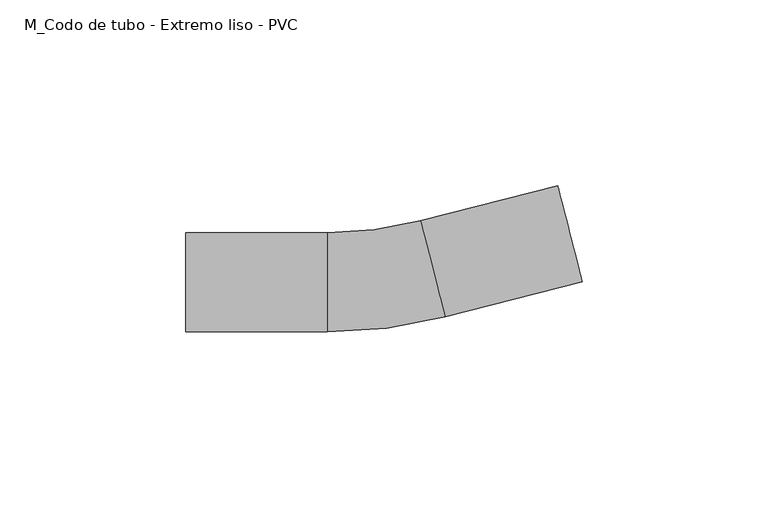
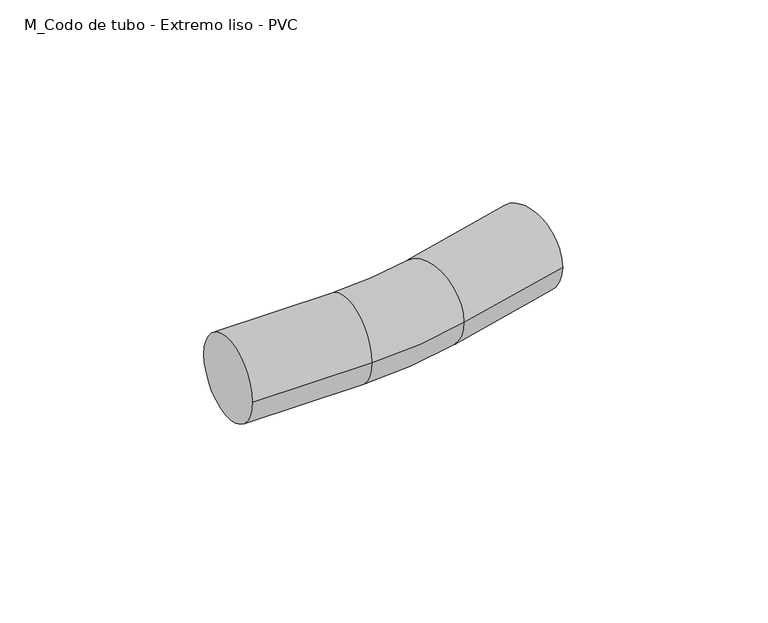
"""IFC4 building model written with IfcOpenShell, lengths in millimetres: cable carrier fitting geometry, M_Codo de tubo - Extremo liso - PVC : CODO ILUMINACION."""

from ifc_helpers import new_model, si_unit, point, frame, origin, place, context, project, spatial, circle_curve, ellipse_curve, trimmed, source, transform, mapped, element, save
from ifc_brep_helpers import plane_surface, cylinder_surface, revolved_surface, advanced_brep


def m_codo_de_tubo_extremo_liso_pvc_b05ac682(model_context):
    return source(origin(), model_context, "Body", "AdvancedBrep", [
        advanced_brep(
        [(-52.5205316, -13.335, 0.0), (-52.5205316, 13.335, 0.0), (-14.4205316, -13.335, 0.0), (-14.4205316, 13.335, 0.0), (10.6565803, 16.4988258, 0.0), (17.2807231, -9.3354467, 0.0), (54.1868266, 0.1276144, 0.0), (47.5626838, 25.9618869, 0.0)],
        [
            (0, 1, circle_curve(frame((-52.5205316, 0.0, 0.0), z_axis=(-1.0, 0.0, 0.0), x_axis=(0.0, 1.0, 0.0)), 13.335)),
            (1, 0, circle_curve(frame((-52.5205316, 0.0, 0.0), z_axis=(-1.0, 0.0, 0.0), x_axis=(0.0, 1.0, 0.0)), 13.335)),
            (0, 2),
            (2, 3, circle_curve(frame((-14.4205316, 0.0, 0.0), z_axis=(-1.0, 0.0, 0.0), x_axis=(0.0, 1.0, 0.0)), 13.335)),
            (3, 1),
            (3, 2, circle_curve(frame((-14.4205316, 0.0, 0.0), z_axis=(-1.0, 0.0, 0.0), x_axis=(0.0, 1.0, 0.0)), 13.335)),
            (4, 3, circle_curve(frame((-14.4205316, 114.3, 0.0), z_axis=(0.0, 0.0, -1.0), x_axis=(0.0, -1.0, 0.0)), 100.965)),
            (2, 5, circle_curve(frame((-14.4205316, 114.3, 0.0), z_axis=(0.0, 0.0, 1.0), x_axis=(0.0, -1.0, 0.0)), 127.635)),
            (5, 4, circle_curve(frame((13.9686517, 3.5816895, 0.0), z_axis=(-0.9686641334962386, -0.24837430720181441, 0.0), x_axis=(-0.24837430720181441, 0.9686641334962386, 0.0)), 13.335)),
            (4, 5, circle_curve(frame((13.9686517, 3.5816895, 0.0), z_axis=(-0.9686641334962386, -0.24837430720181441, 0.0), x_axis=(-0.24837430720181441, 0.9686641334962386, 0.0)), 13.335)),
            (6, 7, circle_curve(frame((50.8747552, 13.0447506, 0.0), z_axis=(0.9686641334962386, 0.24837430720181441, 0.0), x_axis=(-0.24837430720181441, 0.9686641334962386, 0.0)), 13.335)),
            (7, 6, circle_curve(frame((50.8747552, 13.0447506, 0.0), z_axis=(0.9686641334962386, 0.24837430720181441, 0.0), x_axis=(-0.24837430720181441, 0.9686641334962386, 0.0)), 13.335)),
            (5, 6),
            (7, 4),
        ],
        [
            plane_surface(frame((-52.5205316, 0.0, 0.0), z_axis=(-1.0, 0.0, 0.0), x_axis=(0.0, 0.0, 1.0))),
            cylinder_surface(frame((-52.5205316, 0.0, 0.0), z_axis=(-1.0, 0.0, 0.0), x_axis=(0.0, 1.0, 0.0)), 13.335),
            revolved_surface(trimmed(ellipse_curve(frame((-14.4205316, 0.0, 0.0), z_axis=(-1.0, 0.0, 0.0), x_axis=(0.0, 1.0, 0.0)), 13.335, 13.335), [point((-14.4205316, -13.335, 0.0))], [point((-14.4205316, 13.335, 0.0))], True, "CARTESIAN"), (-14.4205316, 114.3, 0.0), (0.0, 0.0, 1.0)),
            revolved_surface(trimmed(ellipse_curve(frame((-14.4205316, 0.0, 0.0), z_axis=(-1.0, 0.0, 0.0), x_axis=(0.0, 1.0, 0.0)), 13.335, 13.335), [point((-14.4205316, 13.335, 0.0))], [point((-14.4205316, -13.335, 0.0))], True, "CARTESIAN"), (-14.4205316, 114.3, 0.0), (0.0, 0.0, 1.0)),
            plane_surface(frame((50.8747552, 13.0447506, 0.0), z_axis=(0.9686641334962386, 0.24837430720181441, 0.0), x_axis=(0.0, 0.0, 1.0))),
            cylinder_surface(frame((13.9686517, 3.5816895, 0.0), z_axis=(-0.9686641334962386, -0.24837430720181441, 0.0), x_axis=(-0.24837430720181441, 0.9686641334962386, 0.0)), 13.335),
        ],
        [
            (0, [[1, 2]]),
            (1, [[-1, 3, 4, 5]]),
            (1, [[-2, -5, 6, -3]]),
            (2, [[7, -4, 8, 9]]),
            (3, [[-8, -6, -7, 10]]),
            (4, [[11, 12]]),
            (5, [[-9, 13, -12, 14]]),
            (5, [[-10, -14, -11, -13]]),
        ],
    ),
    ])


if __name__ == "__main__":
    model = new_model("IFC4")
    model_context = context("Model", 3, world=origin())
    ifc_project = project(units=[si_unit("LENGTHUNIT", "METRE", prefix="MILLI")], contexts=[model_context])
    site = spatial("IfcSite", under=ifc_project)
    building = spatial("IfcBuilding", under=site)
    placement = place(None, origin())
    m_codo_de_tubo_extremo_liso_pvc_shape = m_codo_de_tubo_extremo_liso_pvc_b05ac682(model_context)
    element("IfcCableCarrierFitting", 1, ObjectType="M_Codo de tubo - Extremo liso - PVC : CODO ILUMINACION", at=placement, inside=building, context=model_context, shape_type="MappedRepresentation", body=[
        mapped(m_codo_de_tubo_extremo_liso_pvc_shape, transform((0.0, 0.0, 0.0), x_axis=(1.0, 0.0, 0.0), y_axis=(0.0, 1.0, 0.0), z_axis=(0.0, 0.0, 1.0))),
    ])
    save(model, "model.ifc")
